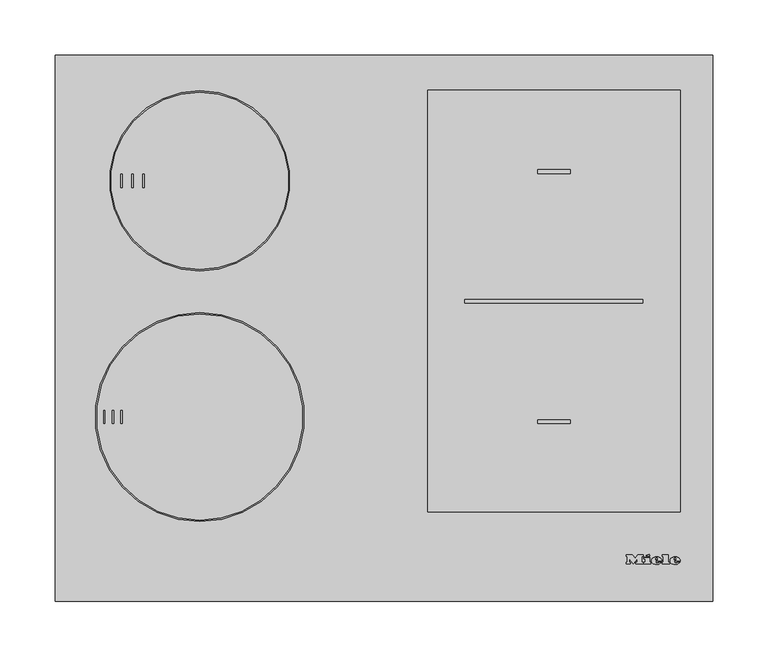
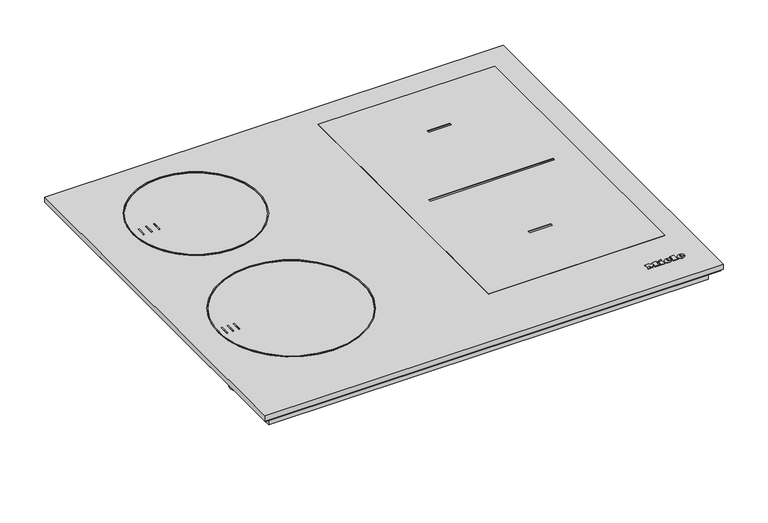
"""IFC4 building model written with IfcOpenShell, lengths in millimetres: proxy geometry, 11390350_DFS_KM7404FX : 26740460_DFS_11390350_KM7404FX."""

from ifc_helpers import new_model, si_unit, point, frame, frame_2d, origin, origin_with_axes, place, context, project, spatial, polyline, circle_curve, ellipse_curve, trimmed, segment, composite_curve, outline, extrude, faceted_brep, source, transform, mapped, element, save
from ifc_brep_helpers import plane_surface, cylinder_surface, revolved_surface, extruded_surface, advanced_brep


def specialty_equipment_44581af3(model_context):
    return source(origin(), model_context, "Body", "SolidModel", [
        advanced_brep(
        [(261.66, 35.3948833, 0.4802537), (261.66, 36.2028828, 0.4811551), (267.012, 36.2028828, 0.4811551), (257.7, 36.2028828, 0.4811551), (259.9, 33.4988845, 0.4781386), (266.876, 35.3948833, 0.4802537), (264.46, 35.3948833, 0.4802537), (262.556, 34.4988838, 0.4792542), (261.66, 37.2268821, 0.4822974), (261.66, 38.0988816, 0.4832701), (263.028, 38.0988816, 0.4832701), (263.028, 37.2268821, 0.4822974), (261.66, 35.3959988, -0.5197457), (262.556, 34.4999994, -0.5207452), (264.46, 35.3959988, -0.5197457), (266.876, 35.3959988, -0.5197457), (259.9, 33.5, -0.5218607), (257.7, 36.2039983, -0.5188443), (267.012, 36.2039983, -0.5188443), (261.66, 36.2039983, -0.5188443), (261.66, 37.2279977, -0.517702), (263.028, 37.2279977, -0.517702), (263.028, 38.0999971, -0.5167293), (261.66, 38.0999971, -0.5167293)],
        [
            (0, 1),
            (1, 2),
            (2, 3, ellipse_curve(frame((262.356, 36.2028828, 0.4811551), z_axis=(0.0, -0.0011155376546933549, 0.9999993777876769), x_axis=(-1.0, 0.0, 0.0)), 4.656, 3.848)),
            (3, 4, circle_curve(frame((260.7960436, 36.4748826, 0.4814585), z_axis=(0.0, -0.0011155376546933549, 0.9999993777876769), x_axis=(0.0, -0.9999993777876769, -0.0011155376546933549)), 3.1079688)),
            (4, 5, circle_curve(frame((262.2627936, 38.5868813, 0.4838145), z_axis=(0.0, -0.0011155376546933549, 0.9999993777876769), x_axis=(0.0, -0.9999993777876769, -0.0011155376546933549)), 5.6098607)),
            (5, 6),
            (6, 7, circle_curve(frame((262.9470588, 36.1388828, 0.4810837), z_axis=(0.0, 0.0011155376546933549, -0.9999993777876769), x_axis=(0.0, -0.9999993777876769, -0.0011155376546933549)), 1.6859795)),
            (7, 0, circle_curve(frame((262.556, 35.3948833, 0.4802537), z_axis=(0.0, 0.0011155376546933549, -0.9999993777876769), x_axis=(0.0, -0.9999993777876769, -0.0011155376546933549)), 0.896)),
            (8, 9),
            (9, 10, circle_curve(frame((262.344, 38.0988816, 0.4832701), z_axis=(0.0, 0.0011155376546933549, -0.9999993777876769), x_axis=(0.0, -0.9999993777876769, -0.0011155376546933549)), 0.684)),
            (10, 11),
            (11, 8),
            (12, 13, circle_curve(frame((262.556, 35.3959988, -0.5197457), z_axis=(0.0, -0.0011155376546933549, 0.9999993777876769), x_axis=(0.0, -0.9999993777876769, -0.0011155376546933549)), 0.896)),
            (13, 14, circle_curve(frame((262.9470588, 36.1399984, -0.5189157), z_axis=(0.0, -0.0011155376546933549, 0.9999993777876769), x_axis=(0.0, -0.9999993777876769, -0.0011155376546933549)), 1.6859795)),
            (14, 15),
            (15, 16, circle_curve(frame((262.2627936, 38.5879968, -0.5161849), z_axis=(0.0, 0.0011155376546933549, -0.9999993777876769), x_axis=(0.0, -0.9999993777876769, -0.0011155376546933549)), 5.6098607)),
            (16, 17, circle_curve(frame((260.7960436, 36.4759981, -0.5185409), z_axis=(0.0, 0.0011155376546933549, -0.9999993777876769), x_axis=(0.0, -0.9999993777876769, -0.0011155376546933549)), 3.1079688)),
            (17, 18, ellipse_curve(frame((262.356, 36.2039983, -0.5188443), z_axis=(0.0, 0.0011155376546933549, -0.9999993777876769), x_axis=(-1.0, 0.0, 0.0)), 4.656, 3.848)),
            (18, 19),
            (19, 12),
            (20, 21),
            (21, 22),
            (22, 23, circle_curve(frame((262.344, 38.0999971, -0.5167293), z_axis=(0.0, -0.0011155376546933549, 0.9999993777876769), x_axis=(0.0, -0.9999993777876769, -0.0011155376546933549)), 0.684)),
            (23, 20),
            (0, 12),
            (19, 1),
            (18, 2),
            (5, 15),
            (14, 6),
            (17, 3),
            (13, 7),
            (16, 4),
            (8, 20),
            (23, 9),
            (22, 10),
            (21, 11),
        ],
        [
            plane_surface(frame((261.66, 36.2028828, 0.4811551), z_axis=(0.0, -0.0011155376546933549, 0.9999993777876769), x_axis=(0.0, 0.9999993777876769, 0.0011155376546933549))),
            plane_surface(frame((261.66, 36.2039983, -0.5188443), z_axis=(0.0, 0.0011155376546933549, -0.9999993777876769), x_axis=(0.0, -0.9999993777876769, -0.0011155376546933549))),
            plane_surface(frame((261.66, 35.3948833, 0.4802537), z_axis=(1.0000000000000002, 0.0, 0.0), x_axis=(0.0, 0.001115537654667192, -0.999999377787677))),
            plane_surface(frame((261.66, 36.2028828, 0.4811551), z_axis=(0.0, -0.999999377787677, -0.001115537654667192), x_axis=(0.0, 0.001115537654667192, -0.999999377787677))),
            plane_surface(frame((266.876, 35.3948833, 0.4802537), z_axis=(0.0, 0.999999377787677, 0.001115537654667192), x_axis=(0.0, 0.001115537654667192, -0.999999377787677))),
            extruded_surface(trimmed(ellipse_curve(frame((262.356, 36.2051139, -1.5188437), z_axis=(0.0, -0.0011155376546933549, 0.9999993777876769), x_axis=(-1.0, 0.0, 0.0)), 4.656, 3.848), [point((267.012, 36.2051139, -1.5188437))], [point((257.7, 36.2051139, -1.5188437))], True, "CARTESIAN"), (0.0, -0.001115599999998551, 0.9999993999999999), 1.0000000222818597),
            revolved_surface(polyline([(262.9470588, 34.454019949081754, -0.5207965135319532), (262.9470588, 34.45290441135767, 0.47920292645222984)]), (262.9470588, 36.1399984, -0.5189157), (0.0, 0.0011155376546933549, -0.9999993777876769)),
            revolved_surface(polyline([(262.556, 34.49999935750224, -0.5207452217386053), (262.556, 34.49888381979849, 0.47925420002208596)]), (262.556, 35.3959988, -0.5197457), (0.0, 0.0011155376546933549, -0.9999993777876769)),
            cylinder_surface(frame((260.7960436, 36.4759981, -0.5185409), z_axis=(0.0, -0.0011155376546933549, 0.9999993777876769), x_axis=(0.0, -0.9999993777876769, -0.0011155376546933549)), 3.1079688),
            cylinder_surface(frame((262.2627936, 38.5879968, -0.5161849), z_axis=(0.0, -0.0011155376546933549, 0.9999993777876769), x_axis=(0.0, -0.9999993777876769, -0.0011155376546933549)), 5.6098607),
            plane_surface(frame((261.66, 37.2268821, 0.4822974), z_axis=(1.0000000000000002, 0.0, 0.0), x_axis=(0.0, 0.001115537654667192, -0.999999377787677))),
            revolved_surface(polyline([(262.344, 37.415997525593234, -0.5174923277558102), (262.344, 37.41488198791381, 0.48250707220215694)]), (262.344, 38.0999971, -0.5167293), (0.0, 0.0011155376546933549, -0.9999993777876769)),
            plane_surface(frame((263.028, 38.0988816, 0.4832701), z_axis=(-1.0000000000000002, 0.0, 0.0), x_axis=(0.0, 0.001115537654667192, -0.999999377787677))),
            plane_surface(frame((263.028, 37.2268821, 0.4822974), z_axis=(0.0, 0.999999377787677, 0.001115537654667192), x_axis=(0.0, 0.001115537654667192, -0.999999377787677))),
        ],
        [
            (0, [[1, 2, 3, 4, 5, 6, 7, 8], [9, 10, 11, 12]]),
            (1, [[13, 14, 15, 16, 17, 18, 19, 20], [21, 22, 23, 24]]),
            (2, [[-1, 25, -20, 26]]),
            (3, [[-2, -26, -19, 27]]),
            (4, [[-6, 28, -15, 29]]),
            (5, [[-3, -27, -18, 30]]),
            (6, [[-7, -29, -14, 31]]),
            (7, [[-8, -31, -13, -25]]),
            (8, [[-4, -30, -17, 32]]),
            (9, [[-5, -32, -16, -28]]),
            (10, [[-9, 33, -24, 34]]),
            (11, [[-10, -34, -23, 35]]),
            (12, [[-11, -35, -22, 36]]),
            (13, [[-12, -36, -21, -33]]),
        ],
    ),
        advanced_brep(
        [(244.964, 35.3948833, 0.4802537), (244.964, 36.2028828, 0.4811551), (250.316, 36.2028828, 0.4811551), (241.004, 36.2028828, 0.4811551), (243.204, 33.4988845, 0.4781386), (250.18, 35.3948833, 0.4802537), (247.764, 35.3948833, 0.4802537), (245.86, 34.4988838, 0.4792542), (244.964, 37.2268821, 0.4822974), (244.964, 38.0988816, 0.4832701), (246.332, 38.0988816, 0.4832701), (246.332, 37.2268821, 0.4822974), (244.964, 35.3959988, -0.5197457), (245.86, 34.4999994, -0.5207452), (247.764, 35.3959988, -0.5197457), (250.18, 35.3959988, -0.5197457), (243.204, 33.5, -0.5218607), (241.004, 36.2039983, -0.5188443), (250.316, 36.2039983, -0.5188443), (244.964, 36.2039983, -0.5188443), (244.964, 37.2279977, -0.517702), (246.332, 37.2279977, -0.517702), (246.332, 38.0999971, -0.5167293), (244.964, 38.0999971, -0.5167293)],
        [
            (0, 1),
            (1, 2),
            (2, 3, ellipse_curve(frame((245.66, 36.2028828, 0.4811551), z_axis=(0.0, -0.0011155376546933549, 0.9999993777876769), x_axis=(-1.0, 0.0, 0.0)), 4.656, 3.848)),
            (3, 4, circle_curve(frame((244.1000436, 36.4748826, 0.4814585), z_axis=(0.0, -0.0011155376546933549, 0.9999993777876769), x_axis=(0.0, -0.9999993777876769, -0.0011155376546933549)), 3.1079688)),
            (4, 5, circle_curve(frame((245.5667936, 38.5868813, 0.4838145), z_axis=(0.0, -0.0011155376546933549, 0.9999993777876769), x_axis=(0.0, -0.9999993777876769, -0.0011155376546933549)), 5.6098607)),
            (5, 6),
            (6, 7, circle_curve(frame((246.2510588, 36.1388828, 0.4810837), z_axis=(0.0, 0.0011155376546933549, -0.9999993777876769), x_axis=(0.0, -0.9999993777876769, -0.0011155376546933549)), 1.6859795)),
            (7, 0, circle_curve(frame((245.86, 35.3948833, 0.4802537), z_axis=(0.0, 0.0011155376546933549, -0.9999993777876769), x_axis=(0.0, -0.9999993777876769, -0.0011155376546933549)), 0.896)),
            (8, 9),
            (9, 10, circle_curve(frame((245.648, 38.0988816, 0.4832701), z_axis=(0.0, 0.0011155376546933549, -0.9999993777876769), x_axis=(0.0, -0.9999993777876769, -0.0011155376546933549)), 0.684)),
            (10, 11),
            (11, 8),
            (12, 13, circle_curve(frame((245.86, 35.3959988, -0.5197457), z_axis=(0.0, -0.0011155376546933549, 0.9999993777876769), x_axis=(0.0, -0.9999993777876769, -0.0011155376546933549)), 0.896)),
            (13, 14, circle_curve(frame((246.2510588, 36.1399984, -0.5189157), z_axis=(0.0, -0.0011155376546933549, 0.9999993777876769), x_axis=(0.0, -0.9999993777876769, -0.0011155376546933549)), 1.6859795)),
            (14, 15),
            (15, 16, circle_curve(frame((245.5667936, 38.5879968, -0.5161849), z_axis=(0.0, 0.0011155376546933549, -0.9999993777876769), x_axis=(0.0, -0.9999993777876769, -0.0011155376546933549)), 5.6098607)),
            (16, 17, circle_curve(frame((244.1000436, 36.4759981, -0.5185409), z_axis=(0.0, 0.0011155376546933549, -0.9999993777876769), x_axis=(0.0, -0.9999993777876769, -0.0011155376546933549)), 3.1079688)),
            (17, 18, ellipse_curve(frame((245.66, 36.2039983, -0.5188443), z_axis=(0.0, 0.0011155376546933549, -0.9999993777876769), x_axis=(-1.0, 0.0, 0.0)), 4.656, 3.848)),
            (18, 19),
            (19, 12),
            (20, 21),
            (21, 22),
            (22, 23, circle_curve(frame((245.648, 38.0999971, -0.5167293), z_axis=(0.0, -0.0011155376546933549, 0.9999993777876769), x_axis=(0.0, -0.9999993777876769, -0.0011155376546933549)), 0.684)),
            (23, 20),
            (0, 12),
            (19, 1),
            (18, 2),
            (5, 15),
            (14, 6),
            (17, 3),
            (13, 7),
            (16, 4),
            (8, 20),
            (23, 9),
            (22, 10),
            (21, 11),
        ],
        [
            plane_surface(frame((244.964, 36.2028828, 0.4811551), z_axis=(0.0, -0.0011155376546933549, 0.9999993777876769), x_axis=(0.0, 0.9999993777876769, 0.0011155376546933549))),
            plane_surface(frame((244.964, 36.2039983, -0.5188443), z_axis=(0.0, 0.0011155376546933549, -0.9999993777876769), x_axis=(0.0, -0.9999993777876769, -0.0011155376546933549))),
            plane_surface(frame((244.964, 35.3948833, 0.4802537), z_axis=(1.0000000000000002, 0.0, 0.0), x_axis=(0.0, 0.001115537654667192, -0.999999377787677))),
            plane_surface(frame((244.964, 36.2028828, 0.4811551), z_axis=(0.0, -0.999999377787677, -0.001115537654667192), x_axis=(0.0, 0.001115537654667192, -0.999999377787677))),
            plane_surface(frame((250.18, 35.3948833, 0.4802537), z_axis=(0.0, 0.999999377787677, 0.001115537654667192), x_axis=(0.0, 0.001115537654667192, -0.999999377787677))),
            extruded_surface(trimmed(ellipse_curve(frame((245.66, 36.2051139, -1.5188437), z_axis=(0.0, -0.0011155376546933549, 0.9999993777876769), x_axis=(-1.0, 0.0, 0.0)), 4.656, 3.848), [point((250.316, 36.2051139, -1.5188437))], [point((241.004, 36.2051139, -1.5188437))], True, "CARTESIAN"), (0.0, -0.001115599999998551, 0.9999993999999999), 1.0000000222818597),
            revolved_surface(polyline([(246.2510588, 34.454019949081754, -0.5207965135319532), (246.2510588, 34.45290441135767, 0.47920292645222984)]), (246.2510588, 36.1399984, -0.5189157), (0.0, 0.0011155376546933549, -0.9999993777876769)),
            revolved_surface(polyline([(245.86, 34.49999935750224, -0.5207452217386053), (245.86, 34.49888381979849, 0.47925420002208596)]), (245.86, 35.3959988, -0.5197457), (0.0, 0.0011155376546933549, -0.9999993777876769)),
            cylinder_surface(frame((244.1000436, 36.4759981, -0.5185409), z_axis=(0.0, -0.0011155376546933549, 0.9999993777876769), x_axis=(0.0, -0.9999993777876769, -0.0011155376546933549)), 3.1079688),
            cylinder_surface(frame((245.5667936, 38.5879968, -0.5161849), z_axis=(0.0, -0.0011155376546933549, 0.9999993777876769), x_axis=(0.0, -0.9999993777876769, -0.0011155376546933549)), 5.6098607),
            plane_surface(frame((244.964, 37.2268821, 0.4822974), z_axis=(1.0000000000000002, 0.0, 0.0), x_axis=(0.0, 0.001115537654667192, -0.999999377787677))),
            revolved_surface(polyline([(245.648, 37.415997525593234, -0.5174923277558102), (245.648, 37.41488198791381, 0.48250707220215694)]), (245.648, 38.0999971, -0.5167293), (0.0, 0.0011155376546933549, -0.9999993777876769)),
            plane_surface(frame((246.332, 38.0988816, 0.4832701), z_axis=(-1.0000000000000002, 0.0, 0.0), x_axis=(0.0, 0.001115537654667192, -0.999999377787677))),
            plane_surface(frame((246.332, 37.2268821, 0.4822974), z_axis=(0.0, 0.999999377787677, 0.001115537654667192), x_axis=(0.0, 0.001115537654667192, -0.999999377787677))),
        ],
        [
            (0, [[1, 2, 3, 4, 5, 6, 7, 8], [9, 10, 11, 12]]),
            (1, [[13, 14, 15, 16, 17, 18, 19, 20], [21, 22, 23, 24]]),
            (2, [[-1, 25, -20, 26]]),
            (3, [[-2, -26, -19, 27]]),
            (4, [[-6, 28, -15, 29]]),
            (5, [[-3, -27, -18, 30]]),
            (6, [[-7, -29, -14, 31]]),
            (7, [[-8, -31, -13, -25]]),
            (8, [[-4, -30, -17, 32]]),
            (9, [[-5, -32, -16, -28]]),
            (10, [[-9, 33, -24, 34]]),
            (11, [[-10, -34, -23, 35]]),
            (12, [[-11, -35, -22, 36]]),
            (13, [[-12, -36, -21, -33]]),
        ],
    ),
        extrude(outline(polyline([(0.0, 0.0), (-0.0109086, -2.9993294), (-1.4390415, -2.9920868), (-1.4315307, 0.0), (0.0, 0.0)])), frame((236.22, 41.0279953, -0.513463), z_axis=(0.0, -0.001115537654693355, 0.999999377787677), x_axis=(-0.4247202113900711, 0.9053240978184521, 0.0010099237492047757)), (0.0, 0.0, 1.0), 1.0),
        extrude(outline(polyline([(-0.4933908, 2.4141097), (-2.7800844, -2.4601583), (-7.0459741, -0.4588767), (-7.4401145, -1.299018), (-8.6568709, -0.728194), (-5.9760369, 4.9862153), (-4.7592805, 4.4153913), (-5.1636142, 3.5535222), (-2.1941493, 2.1604399), (-1.7898157, 3.022309), (-0.4933908, 2.4141097)])), frame((236.22, 41.0279953, -0.513463), z_axis=(0.0, -0.001115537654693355, 0.999999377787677), x_axis=(-0.4247202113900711, 0.9053240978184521, 0.0010099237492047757)), (0.0, 0.0, 1.0), 1.0),
        extrude(outline(polyline([(0.0, 0.0), (0.0, -1.304), (-5.504, -1.304), (-5.504, 5.3519999), (-6.488, 5.3519999), (-6.488, 6.696), (0.0, 6.696), (0.0, 5.3519999), (-0.96, 5.3519999), (-0.96, 0.0), (0.0, 0.0)])), frame((250.764, 40.1959958, -0.5143911), z_axis=(0.0, -0.0011155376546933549, 0.9999993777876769), x_axis=(-1.0, 0.0, 0.0)), (0.0, 0.0, 1.0), 1.0),
        extrude(outline(polyline([(0.0, 0.0), (0.0, -1.304), (-5.576, -1.304), (-7.92, 1.696), (-10.256, -1.304), (-15.128, -1.304), (-15.128, 0.0), (-14.112, 0.0), (-14.112, 5.3519999), (-15.128, 5.3519999), (-15.128, 6.696), (-8.744, 6.696), (-8.744, 5.3519999), (-9.728, 5.3519999), (-9.728, 1.8807777), (-6.136, 6.696), (-2.56, 1.9488752), (-2.56, 5.3519999), (-3.52, 5.3519999), (-3.52, 6.696), (0.0, 6.696), (0.0, 5.3519999), (-0.968, 5.3519999), (-0.968, 0.0), (0.0, 0.0)])), frame((218.3, 40.1959958, -0.5143911), z_axis=(0.0, -0.0011155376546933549, 0.9999993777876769), x_axis=(-1.0, 0.0, 0.0)), (0.0, 0.0, 1.0), 1.0),
        extrude(outline(polyline([(296.0, 492.0), (296.0, 0.0), (-296.0, 0.0), (-296.0, 492.0), (296.0, 492.0)])), frame((0.0, 0.0, -7.0), z_axis=(0.0, 0.0, 1.0), x_axis=(1.0, 0.0, 0.0)), (0.0, 0.0, 1.0), 7.0),
        faceted_brep([(294.0, 490.0, -7.0), (-294.0, 490.0, -7.0), (-294.0, 2.0, -7.0), (294.0, 2.0, -7.0), (294.0, 490.0, -9.6), (-294.0, 490.0, -9.6), (-294.0, 2.0, -9.6), (294.0, 2.0, -9.6), (283.5, 479.5, -23.8), (283.5, 12.5, -23.8), (-283.5, 12.5, -23.8), (-283.5, 479.5, -23.8), (283.5, 479.5, -9.6), (-283.5, 479.5, -9.6), (-283.5, 12.5, -9.6), (283.5, 12.5, -9.6)], [[[0, 1, 2, 3]], [[1, 0, 4, 5]], [[2, 1, 5, 6]], [[3, 2, 6, 7]], [[0, 3, 7, 4]], [[8, 9, 10, 11]], [[4, 7, 6, 5], [12, 13, 14, 15]], [[8, 11, 13, 12]], [[11, 10, 14, 13]], [[10, 9, 15, 14]], [[9, 8, 12, 15]]]),
        extrude(outline(polyline([(-202.8, 304.7), (-224.2, 304.7), (-224.2, 388.1), (-202.8, 388.1), (-202.8, 438.3), (203.2, 438.3), (203.2, 67.3), (-202.8, 67.3), (-202.8, 304.7)])), frame((0.0, 0.0, -53.5), z_axis=(0.0, 0.0, 1.0), x_axis=(1.0, 0.0, 0.0)), (0.0, 0.0, 1.0), 29.7),
        extrude(outline(polyline([(141.2772603, 401.5), (133.9, 401.5), (133.9, 402.7557039), (140.0215564, 402.7557039), (140.0215564, 406.0519266), (134.370889, 406.0519266), (134.370889, 407.3076304), (140.0215564, 407.3076304), (140.0215564, 410.2899271), (134.056963, 410.2899271), (134.056963, 411.545631), (141.2772603, 411.545631), (141.2772603, 401.5)])), frame((0.0, 0.0, -84.5), z_axis=(0.0, 0.0, 1.0), x_axis=(1.0, 0.0, 0.0)), (0.0, 0.0, 1.0), 1.0),
        extrude(outline(polyline([(132.0164442, 401.5), (125.7379248, 401.5), (125.7379248, 402.7557039), (130.7607403, 402.7557039), (130.7607403, 411.545631), (132.0164442, 411.545631), (132.0164442, 401.5)])), frame((0.0, 0.0, -84.5), z_axis=(0.0, 0.0, 1.0), x_axis=(1.0, 0.0, 0.0)), (0.0, 0.0, 1.0), 1.0),
        extrude(outline(composite_curve([segment(trimmed(circle_curve(frame_2d((133.9, 406.5)), 7.5), [point((133.9, 414.0))], [point((133.9, 399.0))], False, "CARTESIAN"), True, "CONTINUOUS"), segment(trimmed(circle_curve(frame_2d((133.9, 406.5)), 7.5), [point((133.9, 399.0))], [point((133.9, 414.0))], False, "CARTESIAN"), True, "CONTINUOUS")], self_intersect=False)), frame((0.0, 0.0, -83.5), z_axis=(0.0, 0.0, 1.0), x_axis=(1.0, 0.0, 0.0)), (0.0, 0.0, 1.0), 30.0),
        extrude(outline(polyline([(266.75, 460.75), (266.75, 80.25), (39.25, 80.25), (39.25, 460.75), (266.75, 460.75)]), holes=[polyline([(233.3, 272.1), (72.7, 272.1), (72.7, 268.9), (233.3, 268.9), (233.3, 272.1)]), polyline([(167.65, 388.85), (138.35, 388.85), (138.35, 385.65), (167.65, 385.65), (167.65, 388.85)]), polyline([(167.65, 163.35), (138.35, 163.35), (138.35, 160.15), (167.65, 160.15), (167.65, 163.35)])]), origin_with_axes(), (0.0, 0.0, 1.0), 1.0),
        extrude(outline(composite_curve([segment(trimmed(circle_curve(frame_2d((-275.0, 100.3)), 8.0), [point((-275.0, 108.3))], [point((-275.0, 92.3))], False, "CARTESIAN"), True, "CONTINUOUS"), segment(trimmed(circle_curve(frame_2d((-275.0, 100.3)), 8.0), [point((-275.0, 92.3))], [point((-275.0, 108.3))], False, "CARTESIAN"), True, "CONTINUOUS")], self_intersect=False)), frame((0.0, 0.0, -28.0), z_axis=(0.0, 0.0, 1.0), x_axis=(1.0, 0.0, 0.0)), (0.0, 0.0, 1.0), 4.2),
        extrude(outline(composite_curve([segment(trimmed(circle_curve(frame_2d((275.0, 391.7)), 8.0), [point((275.0, 399.7))], [point((275.0, 383.7))], False, "CARTESIAN"), True, "CONTINUOUS"), segment(trimmed(circle_curve(frame_2d((275.0, 391.7)), 8.0), [point((275.0, 383.7))], [point((275.0, 399.7))], False, "CARTESIAN"), True, "CONTINUOUS")], self_intersect=False)), frame((0.0, 0.0, -28.0), z_axis=(0.0, 0.0, 1.0), x_axis=(1.0, 0.0, 0.0)), (0.0, 0.0, 1.0), 4.2),
        extrude(outline(composite_curve([segment(trimmed(circle_curve(frame_2d((-166.0, 379.0)), 81.2), [point((-166.0, 460.2))], [point((-166.0, 297.8))], False, "CARTESIAN"), True, "CONTINUOUS"), segment(trimmed(circle_curve(frame_2d((-166.0, 379.0)), 81.2), [point((-166.0, 297.8))], [point((-166.0, 460.2))], False, "CARTESIAN"), True, "CONTINUOUS")], self_intersect=False), holes=[composite_curve([segment(trimmed(circle_curve(frame_2d((-166.0, 379.0)), 80.0), [point((-166.0, 459.0))], [point((-166.0, 299.0))], True, "CARTESIAN"), True, "CONTINUOUS"), segment(trimmed(circle_curve(frame_2d((-166.0, 379.0)), 80.0), [point((-166.0, 299.0))], [point((-166.0, 459.0))], True, "CARTESIAN"), True, "CONTINUOUS")], self_intersect=False)]), origin_with_axes(), (0.0, 0.0, 1.0), 1.0),
        extrude(outline(polyline([(-217.2, 385.0), (-216.0, 385.0), (-216.0, 373.0), (-217.2, 373.0), (-217.2, 385.0)])), origin_with_axes(), (0.0, 0.0, 1.0), 1.0),
        extrude(outline(polyline([(-227.2, 385.0), (-226.0, 385.0), (-226.0, 373.0), (-227.2, 373.0), (-227.2, 385.0)])), origin_with_axes(), (0.0, 0.0, 1.0), 1.0),
        extrude(outline(polyline([(-237.2, 385.0), (-236.0, 385.0), (-236.0, 373.0), (-237.2, 373.0), (-237.2, 385.0)])), origin_with_axes(), (0.0, 0.0, 1.0), 1.0),
        extrude(outline(composite_curve([segment(trimmed(circle_curve(frame_2d((-166.0, 166.0)), 94.2), [point((-166.0, 260.2))], [point((-166.0, 71.8))], False, "CARTESIAN"), True, "CONTINUOUS"), segment(trimmed(circle_curve(frame_2d((-166.0, 166.0)), 94.2), [point((-166.0, 71.8))], [point((-166.0, 260.2))], False, "CARTESIAN"), True, "CONTINUOUS")], self_intersect=False), holes=[composite_curve([segment(trimmed(circle_curve(frame_2d((-166.0, 166.0)), 93.0), [point((-166.0, 259.0))], [point((-166.0, 73.0))], True, "CARTESIAN"), True, "CONTINUOUS"), segment(trimmed(circle_curve(frame_2d((-166.0, 166.0)), 93.0), [point((-166.0, 73.0))], [point((-166.0, 259.0))], True, "CARTESIAN"), True, "CONTINUOUS")], self_intersect=False)]), origin_with_axes(), (0.0, 0.0, 1.0), 1.0),
        extrude(outline(polyline([(-237.2, 172.0), (-236.0, 172.0), (-236.0, 160.0), (-237.2, 160.0), (-237.2, 172.0)])), origin_with_axes(), (0.0, 0.0, 1.0), 1.0),
        extrude(outline(polyline([(-244.9, 172.0), (-243.7, 172.0), (-243.7, 160.0), (-244.9, 160.0), (-244.9, 172.0)])), origin_with_axes(), (0.0, 0.0, 1.0), 1.0),
        extrude(outline(polyline([(-252.6, 172.0), (-251.4, 172.0), (-251.4, 160.0), (-252.6, 160.0), (-252.6, 172.0)])), origin_with_axes(), (0.0, 0.0, 1.0), 1.0),
    ])


if __name__ == "__main__":
    model = new_model("IFC4")
    model_context = context("Model", 3, world=origin())
    ifc_project = project(units=[si_unit("LENGTHUNIT", "METRE", prefix="MILLI")], contexts=[model_context])
    site = spatial("IfcSite", under=ifc_project)
    building = spatial("IfcBuilding", under=site)
    placement = place(None, origin())
    specialty_equipment_shape = specialty_equipment_44581af3(model_context)
    element("IfcBuildingElementProxy", 1, Name="11390350_DFS_KM7404FX : 26740460_DFS_11390350_KM7404FX", ObjectType="11390350_DFS_KM7404FX : 26740460_DFS_11390350_KM7404FX", at=placement, inside=building, context=model_context, shape_type="MappedRepresentation", body=[
        mapped(specialty_equipment_shape, transform((0.0, 0.0, 0.0), x_axis=(1.0, 0.0, 0.0), y_axis=(0.0, 1.0, 0.0), z_axis=(0.0, 0.0, 1.0))),
    ])
    save(model, "model.ifc")
